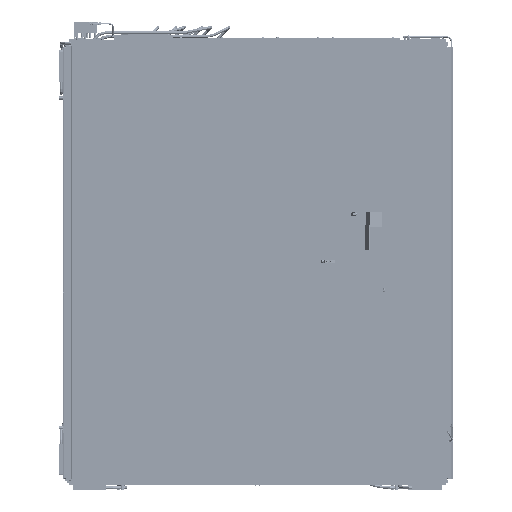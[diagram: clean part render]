
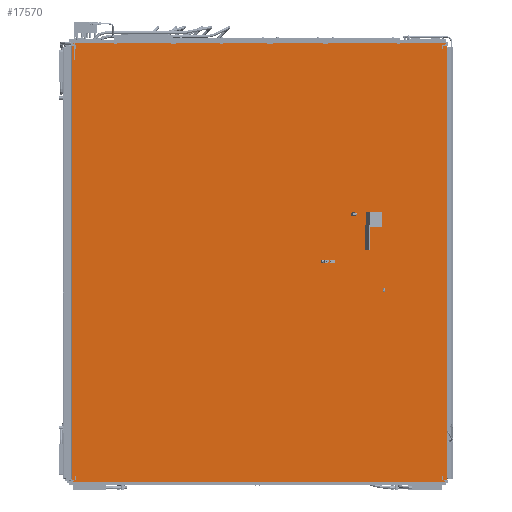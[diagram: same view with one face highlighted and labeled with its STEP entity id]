
A CAD part, front view. The second image highlights one B-rep face of the part: STEP entity #17570.
In plain terms, the highlighted planar face has unit normal (0, -1, 0).
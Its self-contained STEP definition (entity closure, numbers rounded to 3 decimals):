
#17570=ADVANCED_FACE('',(#32013),#26349,.T.);
#26349=PLANE('',#183757);
#32013=FACE_OUTER_BOUND('',#39379,.T.);
#39379=EDGE_LOOP('',(#50814,#50815,#50816,#50817));
#50814=ORIENTED_EDGE('',*,*,#103795,.T.);
#50815=ORIENTED_EDGE('',*,*,#103791,.T.);
#50816=ORIENTED_EDGE('',*,*,#103796,.F.);
#50817=ORIENTED_EDGE('',*,*,#103797,.T.);
#90591=VERTEX_POINT('',#239955);
#90592=VERTEX_POINT('',#239956);
#90595=VERTEX_POINT('',#239964);
#90596=VERTEX_POINT('',#239966);
#103791=EDGE_CURVE('',#90591,#90592,#164210,.T.);
#103795=EDGE_CURVE('',#90595,#90591,#164214,.T.);
#103796=EDGE_CURVE('',#90596,#90592,#164215,.T.);
#103797=EDGE_CURVE('',#90596,#90595,#164216,.T.);
#164210=LINE('',#239954,#174708);
#164214=LINE('',#239963,#174712);
#164215=LINE('',#239965,#174713);
#164216=LINE('',#239967,#174714);
#174708=VECTOR('',#200655,1.);
#174712=VECTOR('',#200661,1.);
#174713=VECTOR('',#200662,1.);
#174714=VECTOR('',#200663,1.);
#183757=AXIS2_PLACEMENT_3D('',#239968,#200664,#200665);
#200655=DIRECTION('',(-1.,0.,0.));
#200661=DIRECTION('',(0.,0.,1.));
#200662=DIRECTION('',(0.,0.,1.));
#200663=DIRECTION('',(1.,0.,0.));
#200664=DIRECTION('',(0.,-1.,0.));
#200665=DIRECTION('',(0.,0.,-1.));
#239954=CARTESIAN_POINT('',(1060.5,0.,2487.));
#239955=CARTESIAN_POINT('',(2121.,0.,2487.));
#239956=CARTESIAN_POINT('',(0.,0.,2487.));
#239963=CARTESIAN_POINT('',(2121.,0.,0.));
#239964=CARTESIAN_POINT('',(2121.,0.,0.));
#239965=CARTESIAN_POINT('',(0.,0.,0.));
#239966=CARTESIAN_POINT('',(0.,0.,0.));
#239967=CARTESIAN_POINT('',(1060.5,0.,0.));
#239968=CARTESIAN_POINT('',(1060.5,0.,0.));
